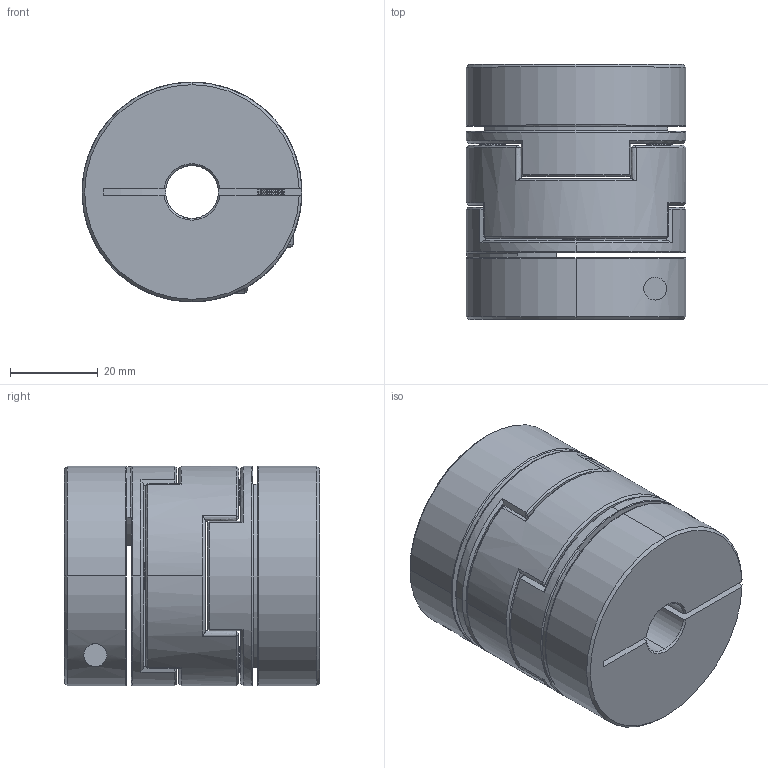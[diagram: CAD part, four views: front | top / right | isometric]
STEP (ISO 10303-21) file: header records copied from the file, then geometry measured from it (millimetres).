
FILE_DESCRIPTION (( 'STEP AP203' ), '1' );
FILE_NAME ('LZ-B-D50L58-12-20.STEP', '2021-10-29T07:29:02', ( '' ), ( '' ), 'SwSTEP 2.0', 'SolidWorks 2018', '' );
FILE_SCHEMA (( 'CONFIG_CONTROL_DESIGN' ));
Length unit declared in the file: millimetre
Products named in the file (1): LZ-B-D50L58-12-20
Bounding box: 50 x 58 x 50 mm (x, y, z)
Volume: 92554.4 mm3; surface area: 30018.3 mm2
Topology: 1 solids, 27 shells, 560 faces, 1364 edges, 810 vertices
Faces by surface type: cone 252, cylinder 160, plane 90, bspline 54, torus 4
Entity records: 17422 total; most frequent: CARTESIAN_POINT 4342, DIRECTION 2782, ORIENTED_EDGE 2720, EDGE_CURVE 1360, AXIS2_PLACEMENT_3D 1123, VERTEX_POINT 810, CIRCLE 616, EDGE_LOOP 594
